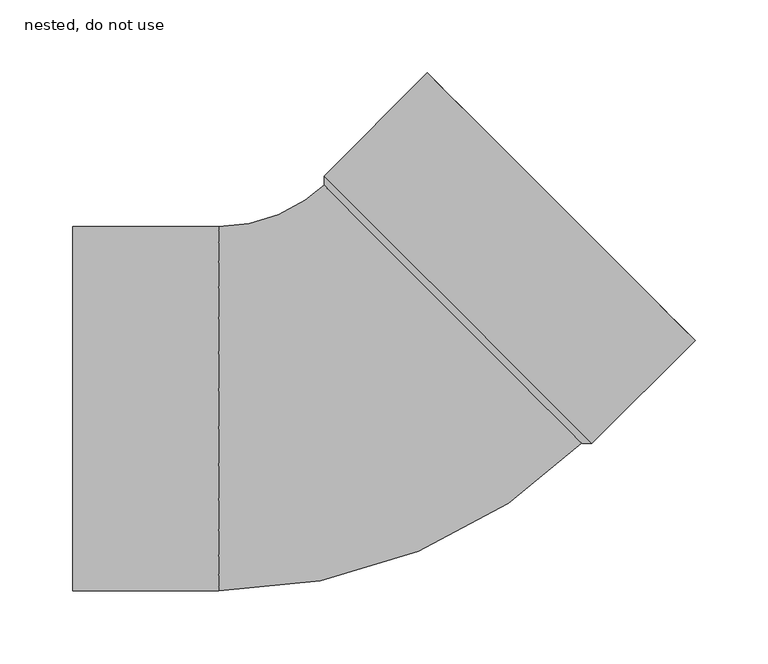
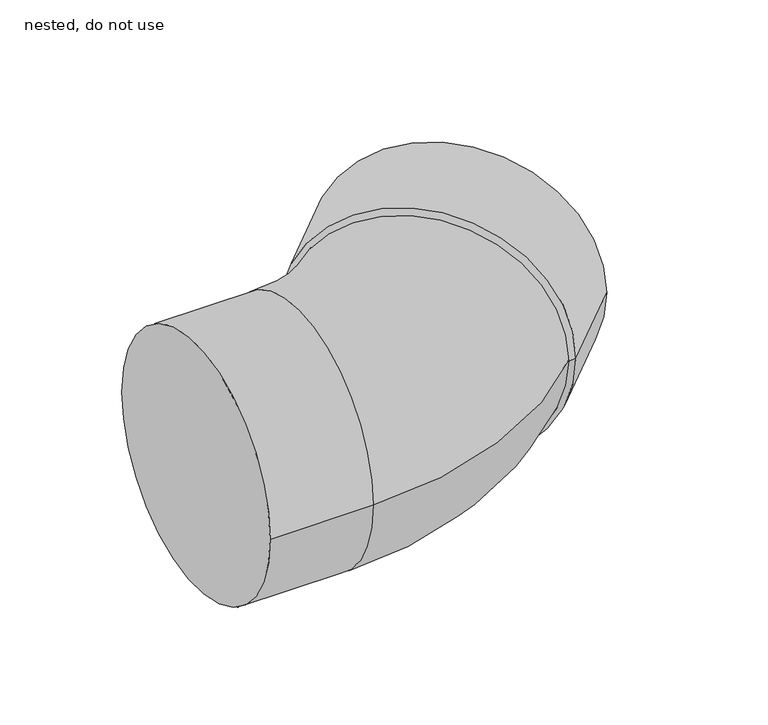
"""IFC4 building model written with IfcOpenShell, lengths in millimetres: pipe fitting geometry, NLRS_52_PIF_UN_Vacurain Flex bocht 1LV_SH_Dyka : nested, do not use."""

import ifcopenshell
import ifcopenshell.guid

model = None  # the IFC model being written
_history = None  # IfcOwnerHistory: only IFC2X3 demands one
_inside = {}  # id of a spatial element -> (the spatial element, [elements in it])
_under = {}  # id of a project, library or spatial element -> (it, [spatial elements below it])
_declared = {}  # id of a project -> (the project, [libraries it declares])
_typed = {}  # id of a type object -> (the type object, [elements of that type])
_made_of = {}  # id of a material, layer set ... -> (it, [elements and type objects made of it])


def new_model(schema):
    """Start an empty IFC model of exactly this schema.

    Asked for "IFC4X3", IfcOpenShell would pick the latest addendum, in which some entities
    have other attributes; the version numbers below select the first issue.
    IFC2X3 requires an IfcOwnerHistory on every rooted entity: one is made here for all.
    """
    global model, _history
    if schema == "IFC4X3":
        model = ifcopenshell.file(schema_version=(4, 3, 0, 0))
    else:
        model = ifcopenshell.file(schema=schema)
    _inside.clear()
    _under.clear()
    _declared.clear()
    _typed.clear()
    _made_of.clear()
    _history = None
    if model.schema == "IFC2X3":
        org = make("IfcOrganization", Name="unknown")
        user = make(
            "IfcPersonAndOrganization",
            ThePerson=make("IfcPerson", FamilyName="unknown"),
            TheOrganization=org,
        )
        app = make(
            "IfcApplication",
            ApplicationDeveloper=org,
            Version="unknown",
            ApplicationFullName="unknown",
            ApplicationIdentifier="unknown",
        )
        _history = make(
            "IfcOwnerHistory",
            OwningUser=user,
            OwningApplication=app,
            ChangeAction="ADDED",
            CreationDate=0,
        )
    return model


def make(cls, **values):
    """One entity of the class cls with the attributes given. An attribute that is None is left unset."""
    return model.create_entity(
        cls, **{name: value for name, value in values.items() if value is not None}
    )


def rooted(cls, **values):
    """An entity with a GlobalId (a new one), such as an element, a storey or a relation."""
    return make(cls, GlobalId=ifcopenshell.guid.new(), OwnerHistory=_history, **values)


def si_unit(unit_type, name, prefix=None):
    """IfcSIUnit, for example si_unit("LENGTHUNIT", "METRE", prefix="MILLI")."""
    return make("IfcSIUnit", UnitType=unit_type, Prefix=prefix, Name=name)


def assignment(units):
    """IfcUnitAssignment: the units of a project."""
    return None if units is None else make("IfcUnitAssignment", Units=units)


def point(xyz):
    """IfcCartesianPoint."""
    return None if xyz is None else make("IfcCartesianPoint", Coordinates=xyz)


def direction(xyz):
    """IfcDirection."""
    return None if xyz is None else make("IfcDirection", DirectionRatios=xyz)


def frame(location, z_axis=None, x_axis=None):
    """IfcAxis2Placement3D, a coordinate frame: its origin and axes. An axis left out is left unset."""
    return make(
        "IfcAxis2Placement3D",
        Location=point(location),
        Axis=direction(z_axis),
        RefDirection=direction(x_axis),
    )


def origin():
    """The frame at (0, 0, 0) with its axes left unset."""
    return frame((0.0, 0.0, 0.0))


def place(relative_to, where):
    """IfcLocalPlacement: puts the frame where relative to a parent placement (None: the world)."""
    return make(
        "IfcLocalPlacement", PlacementRelTo=relative_to, RelativePlacement=where
    )


def context(
    kind, dimensions, precision=None, world=None, true_north=None, identifier=None
):
    """IfcGeometricRepresentationContext, for example the 3D "Model" context."""
    return make(
        "IfcGeometricRepresentationContext",
        ContextIdentifier=identifier,
        ContextType=kind,
        CoordinateSpaceDimension=dimensions,
        Precision=precision,
        WorldCoordinateSystem=world,
        TrueNorth=true_north,
    )


def project(units=None, contexts=None):
    """IfcProject with its units and contexts."""
    return rooted(
        "IfcProject",
        Name="project",
        RepresentationContexts=contexts,
        UnitsInContext=assignment(units),
    )


def spatial(cls, under=None, at=None, **own):
    """A site, building, storey or space (cls), placed at a placement, below another one or the project."""
    s = rooted(cls, ObjectPlacement=at, **own)
    if under is not None:
        _under.setdefault(under.id(), (under, []))[1].append(s)
    return s


def polyline(points):
    """IfcPolyline through the points."""
    return make("IfcPolyline", Points=[point(p) for p in points])


def circle_curve(where, radius):
    """IfcCircle in the frame where."""
    return make("IfcCircle", Position=where, Radius=radius)


def ellipse_curve(where, semi_axis1, semi_axis2):
    """IfcEllipse in the frame where."""
    return make(
        "IfcEllipse", Position=where, SemiAxis1=semi_axis1, SemiAxis2=semi_axis2
    )


def trimmed(basis, trim1, trim2, sense, master):
    """IfcTrimmedCurve: the piece of a basis curve between two trims."""
    return make(
        "IfcTrimmedCurve",
        BasisCurve=basis,
        Trim1=trim1,
        Trim2=trim2,
        SenseAgreement=sense,
        MasterRepresentation=master,
    )


def shape(context_of_items, identifier, shape_type, items):
    """IfcShapeRepresentation: the items that make up one representation, for example the "Body"."""
    return make(
        "IfcShapeRepresentation",
        ContextOfItems=context_of_items,
        RepresentationIdentifier=identifier,
        RepresentationType=shape_type,
        Items=items,
    )


def source(mapping_origin, context_of_items, identifier, shape_type, items):
    """IfcRepresentationMap: a shape defined once, which mapped items show again and again."""
    return make(
        "IfcRepresentationMap",
        MappingOrigin=mapping_origin,
        MappedRepresentation=shape(context_of_items, identifier, shape_type, items),
    )


def transform(
    local_origin,
    x_axis=None,
    y_axis=None,
    z_axis=None,
    scale=None,
    scale2=None,
    scale3=None,
    uniform=True,
):
    """IfcCartesianTransformationOperator3D, or its non-uniform kind. x_axis, y_axis, z_axis: its Axis1, 2, 3."""
    if uniform:
        return make(
            "IfcCartesianTransformationOperator3D",
            Axis1=direction(x_axis),
            Axis2=direction(y_axis),
            LocalOrigin=point(local_origin),
            Scale=scale,
            Axis3=direction(z_axis),
        )
    return make(
        "IfcCartesianTransformationOperator3DnonUniform",
        Axis1=direction(x_axis),
        Axis2=direction(y_axis),
        LocalOrigin=point(local_origin),
        Scale=scale,
        Axis3=direction(z_axis),
        Scale2=scale2,
        Scale3=scale3,
    )


def mapped(mapping_source, mapping_target):
    """IfcMappedItem: shows the shape of a source again, moved by a transform."""
    return make(
        "IfcMappedItem", MappingSource=mapping_source, MappingTarget=mapping_target
    )


def made_of(thing, what):
    """Note that an element or type object is made of a material, layer set ...; save() writes the relation."""
    if what is not None:
        _made_of.setdefault(what.id(), (what, []))[1].append(thing)
    return thing


def element(
    cls,
    number,
    at=None,
    inside=None,
    cuts=None,
    type_object=None,
    material=None,
    context=None,
    identifier="Body",
    shape_type=None,
    held_by="IfcProductDefinitionShape",
    body=None,
    shapes=None,
    **own,
):
    """One element of the class cls, such as IfcWall. Its Tag is "e" and its number.

    at: its placement. inside: the storey or other place that contains it. cuts: it is an
    opening in that element (IfcRelVoidsElement). A single representation is given by context,
    identifier, shape_type and body (its items); several are given by shapes. held_by: the class
    of the entity that holds the representations. save() writes the other relations.
    """
    e = rooted(cls, Tag="e%d" % number, ObjectPlacement=at, **own)
    if body is not None:
        shapes = [shape(context, identifier, shape_type, body)]
    if shapes is not None:
        e.Representation = make(held_by, Representations=shapes)
    if inside is not None:
        _inside.setdefault(inside.id(), (inside, []))[1].append(e)
    if cuts is not None:
        rooted(
            "IfcRelVoidsElement", RelatingBuildingElement=cuts, RelatedOpeningElement=e
        )
    if type_object is not None:
        _typed.setdefault(type_object.id(), (type_object, []))[1].append(e)
    return made_of(e, material)


def aggregate(whole, parts):
    """IfcRelAggregates: a whole, such as a stair, and the parts it consists of."""
    return rooted("IfcRelAggregates", RelatingObject=whole, RelatedObjects=parts)


def save(model, path):
    """Write the relations noted so far, then the file.

    IfcRelAggregates (storeys below a building ...), IfcRelContainedInSpatialStructure (elements
    in a storey), IfcRelDefinesByType, IfcRelAssociatesMaterial and IfcRelDeclares: one each for
    every whole, place, type object, material and project.
    """
    for whole, parts in _under.values():
        aggregate(whole, parts)
    for where, things in _inside.values():
        rooted(
            "IfcRelContainedInSpatialStructure",
            RelatedElements=things,
            RelatingStructure=where,
        )
    for kind, things in _typed.values():
        rooted("IfcRelDefinesByType", RelatedObjects=things, RelatingType=kind)
    for what, things in _made_of.values():
        rooted("IfcRelAssociatesMaterial", RelatedObjects=things, RelatingMaterial=what)
    for by, libraries in _declared.values():
        rooted("IfcRelDeclares", RelatingContext=by, RelatedDefinitions=libraries)
    model.write(path)


def plane_surface(at):
    """IfcPlane: the flat surface through the origin of the frame at, square to its z axis."""
    return make("IfcPlane", Position=at)


def cylinder_surface(at, radius):
    """IfcCylindricalSurface: all points at the distance radius from the z axis of the frame at."""
    return make("IfcCylindricalSurface", Position=at, Radius=radius)


def revolved_surface(curve, axis_point, axis_direction):
    """IfcSurfaceOfRevolution: the curve turned about the line through axis_point along axis_direction."""
    return make(
        "IfcSurfaceOfRevolution",
        SweptCurve=make("IfcArbitraryOpenProfileDef", ProfileType="CURVE", Curve=curve),
        AxisPosition=make("IfcAxis1Placement", Location=point(axis_point), Axis=direction(axis_direction)),
    )


def advanced_brep(points, edges, surfaces, faces):
    """IfcAdvancedBrep: a solid bounded by faces that lie on surfaces and meet in shared edges.

    An edge is (start, end): straight between two places in points (the first is 0);
    or (start, end, curve); or (start, end, curve, False) where it runs against its curve.
    A face is (place in surfaces, loops), or (place, loops, False) where it looks against
    its surface's normal. A loop lists edges by number (the first is 1), with a minus sign
    where the edge is run from its end to its start. The first loop is the outer one.
    """
    corners = [point(p) for p in points]
    vertices = [make("IfcVertexPoint", VertexGeometry=c) for c in corners]
    made = []
    for start, end, *more in edges:
        made.append(
            make(
                "IfcEdgeCurve",
                EdgeStart=vertices[start],
                EdgeEnd=vertices[end],
                EdgeGeometry=more[0] if more else make("IfcPolyline", Points=[corners[start], corners[end]]),
                SameSense=more[1] if len(more) > 1 else True,
            )
        )
    hull = []
    for where, loops, *sense in faces:
        bounds = []
        for j, loop in enumerate(loops):
            ring = [make("IfcOrientedEdge", EdgeElement=made[abs(k) - 1], Orientation=k > 0) for k in loop]
            bounds.append(
                make(
                    "IfcFaceOuterBound" if j == 0 else "IfcFaceBound",
                    Bound=make("IfcEdgeLoop", EdgeList=ring),
                    Orientation=True,
                )
            )
        hull.append(make("IfcAdvancedFace", Bounds=bounds, FaceSurface=surfaces[where], SameSense=sense[0] if sense else True))
    return make("IfcAdvancedBrep", Outer=make("IfcClosedShell", CfsFaces=hull))


def nested_do_not_use_9cbdba82(model_context):
    return source(origin(), model_context, "Body", "AdvancedBrep", [
        advanced_brep(
        [(230.3046786, 46.8811796, 0.0), (46.8811796, 230.3046786, 0.0), (50.2045815, 226.9812768, 0.0), (226.9812768, 50.2045815, 0.0), (159.5940005, -23.8294985, 0.0), (-23.8294985, 159.5940005, 0.0), (152.9471968, -23.8294985, 0.0), (-23.8294985, 152.9471968, 0.0)],
        [
            (0, 1, circle_curve(frame((138.5929291, 138.5929291, 0.0), z_axis=(0.7071067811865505, 0.7071067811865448, 0.0), x_axis=(-0.7071067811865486, 0.7071067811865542, 0.0)), 129.7)),
            (1, 2),
            (2, 3, circle_curve(frame((138.5929291, 138.5929291, 0.0), z_axis=(-0.7071067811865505, -0.7071067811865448, 0.0), x_axis=(-0.7071067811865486, 0.7071067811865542, 0.0)), 125.0)),
            (3, 0),
            (1, 0, circle_curve(frame((138.5929291, 138.5929291, 0.0), z_axis=(0.7071067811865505, 0.7071067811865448, 0.0), x_axis=(-0.7071067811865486, 0.7071067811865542, 0.0)), 129.7)),
            (3, 2, circle_curve(frame((138.5929291, 138.5929291, 0.0), z_axis=(-0.7071067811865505, -0.7071067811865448, 0.0), x_axis=(-0.7071067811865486, 0.7071067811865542, 0.0)), 125.0)),
            (4, 5, circle_curve(frame((67.882251, 67.882251, 0.0), z_axis=(0.7071067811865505, 0.7071067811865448, 0.0), x_axis=(-0.7071067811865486, 0.7071067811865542, 0.0)), 129.7)),
            (5, 1),
            (0, 4),
            (5, 4, circle_curve(frame((67.882251, 67.882251, 0.0), z_axis=(0.7071067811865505, 0.7071067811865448, 0.0), x_axis=(-0.7071067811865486, 0.7071067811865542, 0.0)), 129.7)),
            (6, 7, circle_curve(frame((64.5588491, 64.5588491, 0.0), z_axis=(0.7071067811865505, 0.7071067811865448, 0.0), x_axis=(-0.7071067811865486, 0.7071067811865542, 0.0)), 125.0)),
            (7, 5),
            (4, 6),
            (7, 6, circle_curve(frame((64.5588491, 64.5588491, 0.0), z_axis=(0.7071067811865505, 0.7071067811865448, 0.0), x_axis=(-0.7071067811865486, 0.7071067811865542, 0.0)), 125.0)),
            (2, 7),
            (6, 3),
        ],
        [
            plane_surface(frame((138.5929291, 138.5929291, 0.0), z_axis=(0.7071067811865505, 0.7071067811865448, 0.0), x_axis=(-0.7071067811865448, 0.7071067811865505, 0.0))),
            cylinder_surface(frame((67.882251, 67.882251, 0.0), z_axis=(-0.7071067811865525, -0.7071067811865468, 0.0), x_axis=(-0.7071067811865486, 0.7071067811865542, 0.0)), 129.7),
            revolved_surface(polyline([(-23.8294985, 159.5940005, 0.0), (-23.8294985, 152.9471968, 0.0)]), (67.882251, 67.882251, 0.0), (-0.7071067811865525, -0.7071067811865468, 0.0)),
            revolved_surface(polyline([(-23.8294985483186, 152.94719674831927, 0.0), (50.20458150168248, 226.98127679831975, 0.0)]), (67.882251, 67.882251, 0.0), (-0.7071067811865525, -0.7071067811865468, 0.0)),
        ],
        [
            (0, [[1, 2, 3, 4]]),
            (0, [[5, -4, 6, -2]]),
            (1, [[7, 8, -1, 9]]),
            (1, [[10, -9, -5, -8]]),
            (2, [[11, 12, -7, 13]]),
            (2, [[14, -13, -10, -12]]),
            (3, [[-3, 15, -11, 16]]),
            (3, [[-6, -16, -14, -15]]),
        ],
    ),
        advanced_brep(
        [(-196.0, -125.0, 0.0), (-196.0, 125.0, 0.0), (-96.0, -125.0, 0.0), (-96.0, 125.0, 0.0), (156.2705986, -20.5060967, 0.0), (67.8773664, 67.8871356, 124.9999998), (-20.5060967, 156.2705986, 0.0), (67.8773664, 67.8871356, -124.9999998)],
        [
            (0, 1, circle_curve(frame((-196.0, 0.0, 0.0), z_axis=(-1.0, 0.0, 0.0), x_axis=(0.0, 1.0, 0.0)), 125.0)),
            (1, 0, circle_curve(frame((-196.0, 0.0, 0.0), z_axis=(-1.0, 0.0, 0.0), x_axis=(0.0, 1.0, 0.0)), 125.0)),
            (0, 2),
            (2, 3, circle_curve(frame((-96.0, 0.0, 0.0), z_axis=(-1.0, 0.0, 0.0), x_axis=(0.0, 1.0, 0.0)), 125.0)),
            (3, 1),
            (3, 2, circle_curve(frame((-96.0, 0.0, 0.0), z_axis=(-1.0, 0.0, 0.0), x_axis=(0.0, 1.0, 0.0)), 125.0)),
            (2, 4, circle_curve(frame((-96.0, 231.764502, 0.0), z_axis=(0.0, 0.0, 1.0), x_axis=(0.0, -1.0, 0.0)), 356.764502)),
            (4, 5, circle_curve(frame((67.882251, 67.882251, 0.0), z_axis=(-0.7071067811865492, -0.7071067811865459, 0.0), x_axis=(-0.707106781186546, 0.7071067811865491, 0.0)), 125.0)),
            (5, 6, circle_curve(frame((67.882251, 67.882251, 0.0), z_axis=(-0.7071067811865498, -0.7071067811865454, 0.0), x_axis=(-0.7071067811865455, 0.7071067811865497, 0.0)), 125.0)),
            (6, 3, circle_curve(frame((-96.0, 231.764502, 0.0), z_axis=(0.0, 0.0, -1.0), x_axis=(0.0, -1.0, 0.0)), 106.764502)),
            (6, 7, circle_curve(frame((67.882251, 67.882251, 0.0), z_axis=(-0.7071067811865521, -0.707106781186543, 0.0), x_axis=(-0.7071067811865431, 0.707106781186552, 0.0)), 125.0)),
            (7, 4, circle_curve(frame((67.882251, 67.882251, 0.0), z_axis=(-0.7071067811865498, -0.7071067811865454, 0.0), x_axis=(-0.7071067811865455, 0.7071067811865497, 0.0)), 125.0)),
        ],
        [
            plane_surface(frame((-196.0, 0.0, 0.0), z_axis=(-1.0, 0.0, 0.0), x_axis=(0.0, 0.0, 1.0))),
            cylinder_surface(frame((-196.0, 0.0, 0.0), z_axis=(-1.0, 0.0, 0.0), x_axis=(0.0, 1.0, 0.0)), 125.0),
            revolved_surface(trimmed(ellipse_curve(frame((-96.0, 0.0, 0.0), z_axis=(-1.0000000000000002, 0.0, 0.0), x_axis=(0.0, 1.0, 0.0)), 125.0, 125.0), [point((-96.0, -125.0, 0.0))], [point((-96.0, 125.0, 0.0))], True, "CARTESIAN"), (-96.0, 231.764502, 0.0), (0.0, 0.0, 1.0000000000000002)),
            revolved_surface(trimmed(ellipse_curve(frame((-96.0, 0.0, 0.0), z_axis=(-1.0000000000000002, 0.0, 0.0), x_axis=(0.0, 1.0, 0.0)), 125.0, 125.0), [point((-96.0, 125.0, 0.0))], [point((-96.0, -125.0, 0.0))], True, "CARTESIAN"), (-96.0, 231.764502, 0.0), (0.0, 0.0, 1.0000000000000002)),
            plane_surface(frame((67.882251, 67.882251, 0.0), z_axis=(0.7071067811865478, 0.7071067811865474, 0.0), x_axis=(0.0, 0.0, 1.0))),
        ],
        [
            (0, [[1, 2]]),
            (1, [[-1, 3, 4, 5]]),
            (1, [[-2, -5, 6, -3]]),
            (2, [[-4, 7, 8, 9, 10]]),
            (3, [[-6, -10, 11, 12, -7]]),
            (4, [[-8, -12, -11, -9]]),
        ],
    ),
    ])


if __name__ == "__main__":
    model = new_model("IFC4")
    model_context = context("Model", 3, world=origin())
    ifc_project = project(units=[si_unit("LENGTHUNIT", "METRE", prefix="MILLI")], contexts=[model_context])
    site = spatial("IfcSite", under=ifc_project)
    building = spatial("IfcBuilding", under=site)
    placement = place(None, origin())
    nested_do_not_use_shape = nested_do_not_use_9cbdba82(model_context)
    element("IfcPipeFitting", 1, ObjectType="NLRS_52_PIF_UN_Vacurain Flex bocht 1LV_SH_Dyka : nested, do not use", at=placement, inside=building, context=model_context, shape_type="MappedRepresentation", body=[
        mapped(nested_do_not_use_shape, transform((0.0, 0.0, 0.0), x_axis=(1.0, 0.0, 0.0), y_axis=(0.0, 1.0, 0.0), z_axis=(0.0, 0.0, 1.0))),
    ])
    save(model, "model.ifc")
